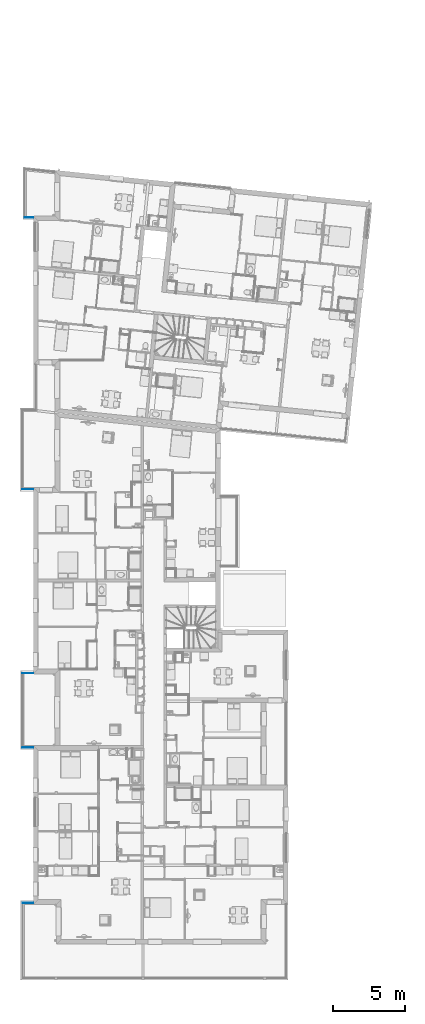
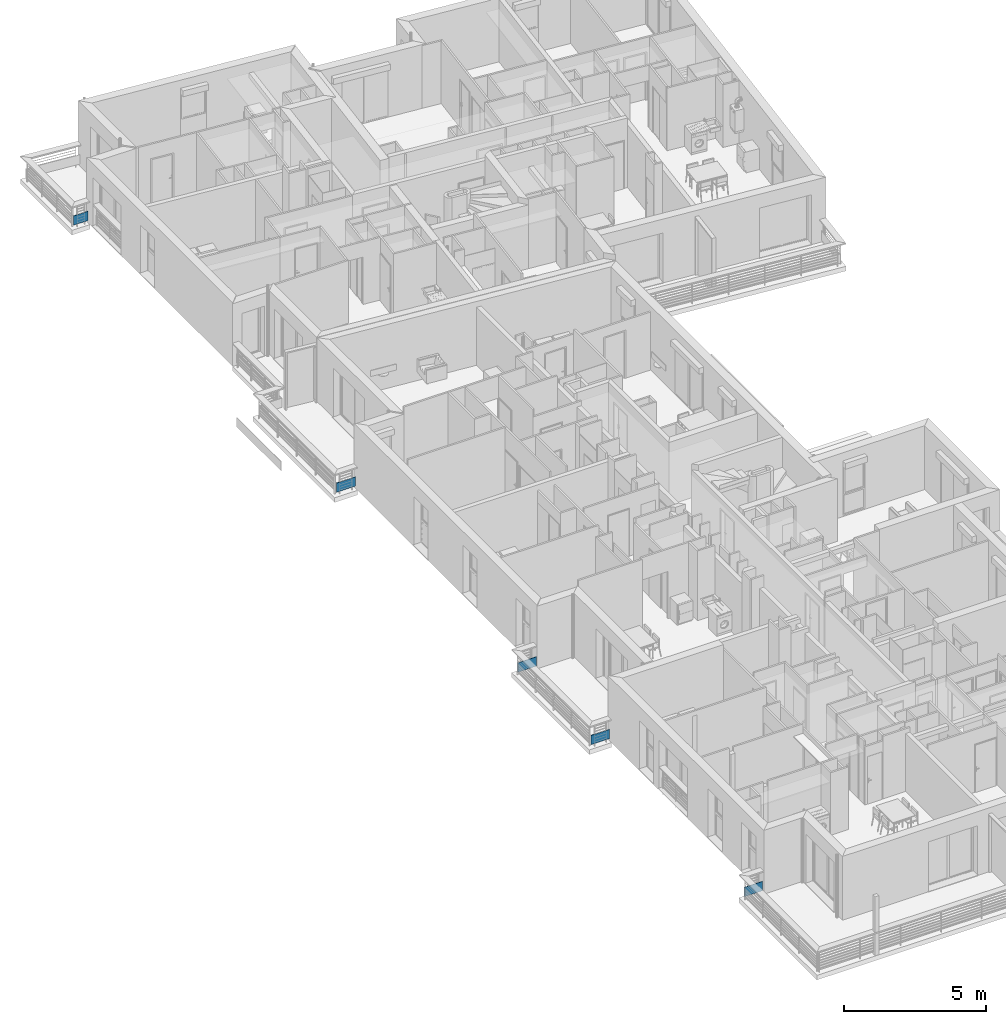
# One storey, part 73 of 164: 5 walls.
"""IFC2X3 building model written with IfcOpenShell, lengths in millimetres."""

from ifc_helpers import new_model, entity, si_unit, converted_unit, derived_unit, money_unit, direction, frame, origin_with_axes, place, context, subcontext, project, spatial, polyline, outline, extrude, material, layer, layer_set, layer_usage, type_object, element, save


model = new_model("IFC2X3")

# Units and contexts
model_context = context("Model", 3, precision=0.01, world=origin_with_axes(), true_north=direction((0.0, 1.0)))
body_context = subcontext(model_context, "Body", "Model", "MODEL_VIEW")
ifc_project = project(units=[si_unit("LENGTHUNIT", "METRE", prefix="MILLI"), si_unit("AREAUNIT", "SQUARE_METRE"), si_unit("VOLUMEUNIT", "CUBIC_METRE"), converted_unit("PLANEANGLEUNIT", "DEGREE", entity("IfcPlaneAngleMeasure", 0.0174532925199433), si_unit("PLANEANGLEUNIT", "RADIAN"), dimensions=[0, 0, 0, 0, 0, 0, 0]), money_unit("USD"), converted_unit("TIMEUNIT", "Year", entity("IfcTimeMeasure", 31557600.0), si_unit("TIMEUNIT", "SECOND"), dimensions=[0, 0, 1, 0, 0, 0, 0]), si_unit("MASSUNIT", "GRAM", prefix="KILO"), si_unit("THERMODYNAMICTEMPERATUREUNIT", "DEGREE_CELSIUS"), si_unit("LUMINOUSINTENSITYUNIT", "LUMEN"), si_unit("ENERGYUNIT", "JOULE", prefix="MEGA"), derived_unit("THERMALCONDUCTANCEUNIT", [(si_unit("POWERUNIT", "WATT"), 1), (si_unit("LENGTHUNIT", "METRE"), -1), (si_unit("THERMODYNAMICTEMPERATUREUNIT", "KELVIN"), -1)]), derived_unit("SPECIFICHEATCAPACITYUNIT", [(si_unit("ENERGYUNIT", "JOULE"), 1), (si_unit("MASSUNIT", "GRAM", prefix="KILO"), -1), (si_unit("THERMODYNAMICTEMPERATUREUNIT", "KELVIN"), -1)]), derived_unit("MASSDENSITYUNIT", [(si_unit("MASSUNIT", "GRAM", prefix="KILO"), 1), (si_unit("VOLUMEUNIT", "CUBIC_METRE"), -1)])], contexts=[model_context])

# Site, building, storey
site_placement = place(None, origin_with_axes())
site = spatial("IfcSite", under=ifc_project, at=site_placement, Name="Site", CompositionType="ELEMENT")
building_placement = place(site_placement, origin_with_axes())
building = spatial("IfcBuilding", under=site, at=building_placement, Name="Bâtiment", CompositionType="ELEMENT")
storey_placement = place(building_placement, frame((0.0, 0.0, 5750.0), z_axis=(0.0, 0.0, 1.0), x_axis=(1.0, 0.0, 0.0)))
storey = spatial("IfcBuildingStorey", under=building, at=storey_placement, Name="Etage1", CompositionType="ELEMENT", Elevation=5750.0)

# Walls
ifc_material = material(Name="MANQUANT")
ifc_layer = layer(ifc_material, 20.0, ventilated="UNKNOWN")
ifc_layer_set = layer_set([ifc_layer], Name="MANQUANT 20")
ifc_layer_usage_1 = layer_usage(ifc_layer_set, "AXIS2", "NEGATIVE", 20.0)
wall_type = type_object("IfcWallType", Name="MANQUANT 20", PredefinedType="NOTDEFINED")
wall_1_placement = place(storey_placement, frame((2215859.235568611, -626186.707542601, 99.99999999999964), z_axis=(0.0, 0.0, 1.0), x_axis=(1.0, 0.0, 0.0)))
element("IfcWallStandardCase", 1, at=wall_1_placement, inside=storey, type_object=wall_type, material=ifc_layer_usage_1, Name="Mur-189", context=body_context, shape_type="SweptSolid", body=[
    extrude(outline(polyline([(0.0, 0.0), (775.0011185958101, 0.0), (775.0010007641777, 20.00000000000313), (19.99999999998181, 20.00000000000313), (0.0, 0.0)])), origin_with_axes(), (0.0, 0.0, 1.0), 400.0),
])
ifc_layer_usage_2 = layer_usage(ifc_layer_set, "AXIS2", "NEGATIVE", 20.0)
wall_2_placement = place(storey_placement, frame((2216634.233344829, -654937.0120138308, 99.99999999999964), z_axis=(0.0, 0.0, 1.0), x_axis=(-1.0, 0.0, 0.0)))
element("IfcWallStandardCase", 2, at=wall_2_placement, inside=storey, type_object=wall_type, material=ifc_layer_usage_2, Name="Mur-149", context=body_context, shape_type="SweptSolid", body=[
    extrude(outline(polyline([(0.0, 0.0), (751.6079315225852, 0.0), (731.6079580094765, 19.99999999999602), (0.0, 19.99999999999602), (0.0, 0.0)])), origin_with_axes(), (0.0, 0.0, 1.0), 400.0),
])
ifc_layer_usage_3 = layer_usage(ifc_layer_set, "AXIS2", "NEGATIVE", 20.0)
wall_3_placement = place(storey_placement, frame((2216634.302325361, -638958.7464227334, 99.99999999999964), z_axis=(0.0, 0.0, 1.0), x_axis=(-1.0, 0.0, 0.0)))
element("IfcWallStandardCase", 3, at=wall_3_placement, inside=storey, type_object=wall_type, material=ifc_layer_usage_3, Name="Mur-156", context=body_context, shape_type="SweptSolid", body=[
    extrude(outline(polyline([(-0.009609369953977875, 0.0), (770.0721910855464, 0.0), (750.0721910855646, 19.99999999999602), (-0.009727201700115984, 19.99999999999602), (-0.009609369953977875, 0.0)])), origin_with_axes(), (0.0, 0.0, 1.0), 400.0),
])
ifc_layer_usage_4 = layer_usage(ifc_layer_set, "AXIS2", "NEGATIVE", 20.0)
wall_4_placement = place(storey_placement, frame((2216033.871261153, -607292.3879007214, 99.99999999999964), z_axis=(0.0, 0.0, 1.0), x_axis=(1.0, 0.0, 0.0)))
element("IfcWallStandardCase", 4, at=wall_4_placement, inside=storey, type_object=wall_type, material=ifc_layer_usage_4, Name="Mur-166", context=body_context, shape_type="SweptSolid", body=[
    extrude(outline(polyline([(0.0, 0.0), (600.3620836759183, 0.0), (600.3620836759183, 20.00000000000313), (19.99999999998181, 20.00000000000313), (0.0, 0.0)])), origin_with_axes(), (0.0, 0.0, 1.0), 400.0),
])
ifc_layer_usage_5 = layer_usage(ifc_layer_set, "AXIS2", "NEGATIVE", 20.0)
wall_5_placement = place(storey_placement, frame((2215864.230134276, -644141.3765232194, 99.99999999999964), z_axis=(0.0, 0.0, 1.0), x_axis=(1.0, 0.0, 0.0)))
element("IfcWallStandardCase", 5, at=wall_5_placement, inside=storey, type_object=wall_type, material=ifc_layer_usage_5, Name="Mur-170", context=body_context, shape_type="SweptSolid", body=[
    extrude(outline(polyline([(0.0, 0.0), (770.0032105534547, 0.0), (770.0032105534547, 19.99999999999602), (19.99999999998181, 19.99999999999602), (0.0, 0.0)])), origin_with_axes(), (0.0, 0.0, 1.0), 400.0),
])

save(model, "model.ifc")
